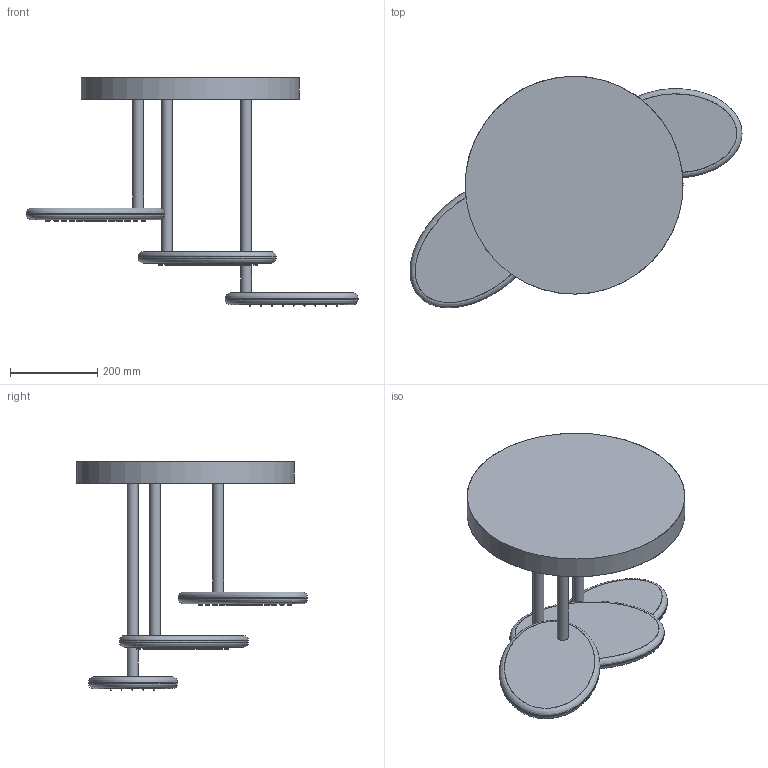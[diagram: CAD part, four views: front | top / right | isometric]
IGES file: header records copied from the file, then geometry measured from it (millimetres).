
Global section: file name: D:\Desktop\GIOVANNI\SCHEDE PRODOTTO\SOFFIONI\METEORA\3D\MOMA DESIGN_SOFFIONI_METEORA TRE PETALI.igs; native system: Rhinoceros ( Jan 17 2018 ); preprocessor: Trout Lake IGES 012 Jan 17 2018; date: 230613.073538; units: millimetre
Bounding box: 761.95 x 530.81 x 525.32 mm (x, y, z)
Surface area: 1046225.9 mm2 (no closed solid volume)
Topology: 0 solids, 0 shells, 1242 faces, 5260 edges, 4380 vertices
Faces by surface type: bspline 1242
